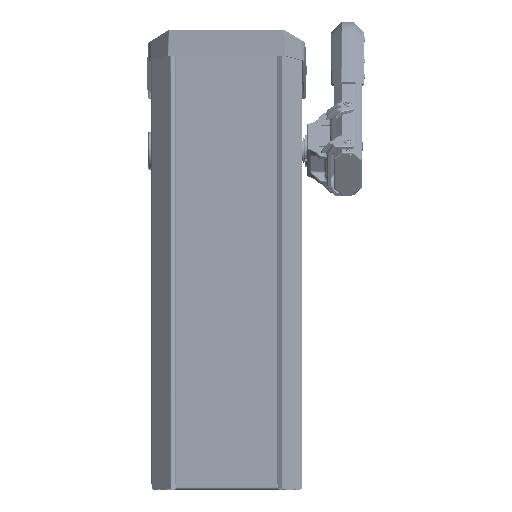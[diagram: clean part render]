
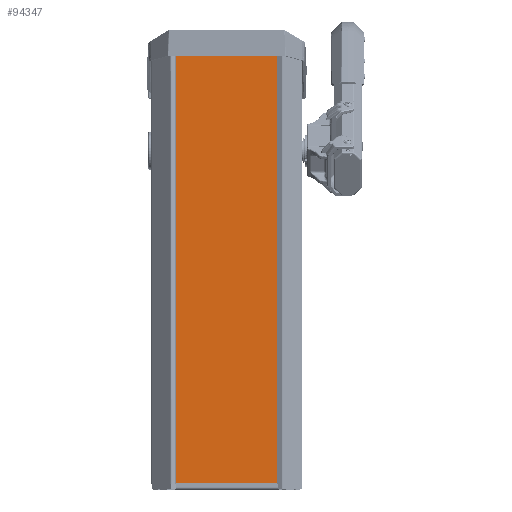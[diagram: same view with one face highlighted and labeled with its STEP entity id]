
A CAD part, front view. The second image highlights one B-rep face of the part: STEP entity #94347.
In plain terms, the highlighted planar face has unit normal (0, -1, 0) as drawn and (0, 1, 0) by its records, which use the part's own axes.
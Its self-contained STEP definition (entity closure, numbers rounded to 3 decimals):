
#8387=CIRCLE('',#106019,5.25);
#8388=CIRCLE('',#106020,5.25);
#23887=ORIENTED_EDGE('',*,*,#45178,.T.);
#23888=ORIENTED_EDGE('',*,*,#45179,.T.);
#23889=ORIENTED_EDGE('',*,*,#45166,.F.);
#23890=ORIENTED_EDGE('',*,*,#45180,.T.);
#23891=ORIENTED_EDGE('',*,*,#45160,.F.);
#23892=ORIENTED_EDGE('',*,*,#45181,.T.);
#23893=ORIENTED_EDGE('',*,*,#45156,.F.);
#23894=ORIENTED_EDGE('',*,*,#45182,.T.);
#23895=ORIENTED_EDGE('',*,*,#45170,.F.);
#23896=ORIENTED_EDGE('',*,*,#45183,.T.);
#45156=EDGE_CURVE('',#56732,#56733,#64430,.T.);
#45160=EDGE_CURVE('',#56736,#56737,#64434,.T.);
#45166=EDGE_CURVE('',#56742,#56743,#64440,.T.);
#45170=EDGE_CURVE('',#56746,#56747,#64444,.T.);
#45178=EDGE_CURVE('',#56750,#56750,#8387,.T.);
#45179=EDGE_CURVE('',#56751,#56751,#8388,.T.);
#45180=EDGE_CURVE('',#56742,#56737,#64450,.F.);
#45181=EDGE_CURVE('',#56736,#56733,#64451,.F.);
#45182=EDGE_CURVE('',#56732,#56747,#64452,.F.);
#45183=EDGE_CURVE('',#56746,#56743,#64453,.F.);
#56732=VERTEX_POINT('',#214780);
#56733=VERTEX_POINT('',#214781);
#56736=VERTEX_POINT('',#214789);
#56737=VERTEX_POINT('',#214790);
#56742=VERTEX_POINT('',#214801);
#56743=VERTEX_POINT('',#214803);
#56746=VERTEX_POINT('',#214810);
#56747=VERTEX_POINT('',#214812);
#56750=VERTEX_POINT('',#214825);
#56751=VERTEX_POINT('',#214827);
#64430=LINE('',#214779,#71928);
#64434=LINE('',#214788,#71932);
#64440=LINE('',#214802,#71938);
#64444=LINE('',#214811,#71942);
#64450=LINE('',#214828,#71948);
#64451=LINE('',#214829,#71949);
#64452=LINE('',#214830,#71950);
#64453=LINE('',#214831,#71951);
#71928=VECTOR('',#122062,1000.);
#71932=VECTOR('',#122068,1000.);
#71938=VECTOR('',#122076,1000.);
#71942=VECTOR('',#122082,1000.);
#71948=VECTOR('',#122100,1000.);
#71949=VECTOR('',#122101,1000.);
#71950=VECTOR('',#122102,1000.);
#71951=VECTOR('',#122103,1000.);
#79649=EDGE_LOOP('',(#23887));
#79650=EDGE_LOOP('',(#23888));
#79651=EDGE_LOOP('',(#23889,#23890,#23891,#23892,#23893,#23894,#23895,#23896));
#86016=FACE_BOUND('',#79649,.T.);
#86017=FACE_BOUND('',#79650,.T.);
#86018=FACE_BOUND('',#79651,.T.);
#90162=PLANE('',#106018);
#94347=ADVANCED_FACE('',(#86016,#86017,#86018),#90162,.F.);
#106018=AXIS2_PLACEMENT_3D('',#214823,#122094,#122095);
#106019=AXIS2_PLACEMENT_3D('',#214824,#122096,#122097);
#106020=AXIS2_PLACEMENT_3D('',#214826,#122098,#122099);
#122062=DIRECTION('',(0.,0.,-1.));
#122068=DIRECTION('',(1.,0.,0.));
#122076=DIRECTION('',(0.,0.,1.));
#122082=DIRECTION('',(-1.,0.,0.));
#122094=DIRECTION('',(0.,-1.,0.));
#122095=DIRECTION('',(0.,0.,-1.));
#122096=DIRECTION('',(0.,-1.,0.));
#122097=DIRECTION('',(0.,0.,-1.));
#122098=DIRECTION('',(0.,-1.,0.));
#122099=DIRECTION('',(0.,0.,-1.));
#122100=DIRECTION('',(0.707,0.,0.707));
#122101=DIRECTION('',(0.707,0.,-0.707));
#122102=DIRECTION('',(-0.707,0.,-0.707));
#122103=DIRECTION('',(-0.707,0.,0.707));
#214779=CARTESIAN_POINT('',(-108.3,0.,862.));
#214780=CARTESIAN_POINT('',(-108.3,0.,860.));
#214781=CARTESIAN_POINT('',(-108.3,0.,2.));
#214788=CARTESIAN_POINT('',(-108.3,0.,0.));
#214789=CARTESIAN_POINT('',(-106.3,0.,0.));
#214790=CARTESIAN_POINT('',(106.3,0.,0.));
#214801=CARTESIAN_POINT('',(108.3,0.,2.));
#214802=CARTESIAN_POINT('',(108.3,0.,0.));
#214803=CARTESIAN_POINT('',(108.3,0.,860.));
#214810=CARTESIAN_POINT('',(106.3,0.,862.));
#214811=CARTESIAN_POINT('',(108.3,0.,862.));
#214812=CARTESIAN_POINT('',(-106.3,0.,862.));
#214823=CARTESIAN_POINT('',(-108.3,0.,0.));
#214824=CARTESIAN_POINT('',(-85.,0.,7.));
#214825=CARTESIAN_POINT('',(-85.,0.,1.75));
#214826=CARTESIAN_POINT('',(85.,0.,7.));
#214827=CARTESIAN_POINT('',(85.,0.,1.75));
#214828=CARTESIAN_POINT('',(108.3,0.,2.));
#214829=CARTESIAN_POINT('',(-106.3,0.,0.));
#214830=CARTESIAN_POINT('',(-108.3,0.,860.));
#214831=CARTESIAN_POINT('',(106.3,0.,862.));
